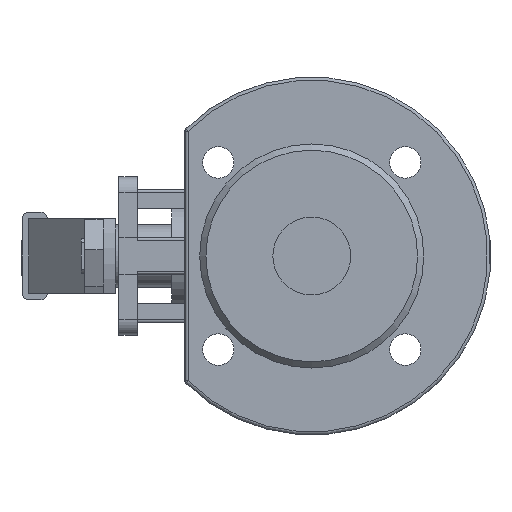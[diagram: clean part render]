
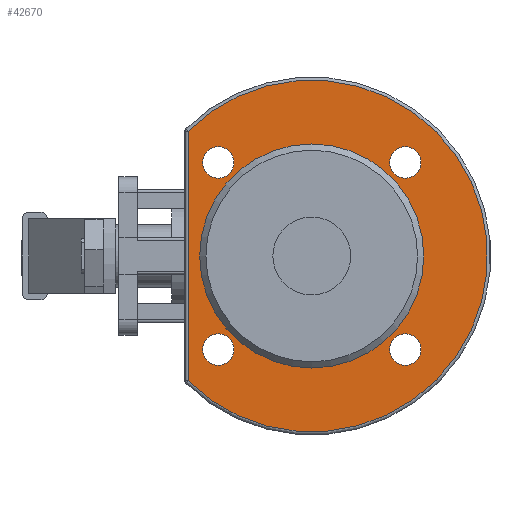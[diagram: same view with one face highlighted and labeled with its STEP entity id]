
A CAD part, left-side view. The second image highlights one B-rep face of the part: STEP entity #42670.
In plain terms, the highlighted planar face has unit normal (-1, 0, 0).
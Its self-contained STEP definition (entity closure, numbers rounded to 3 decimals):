
#42404=CARTESIAN_POINT('',(-23.,39.752,40.15));
#42405=VERTEX_POINT('',#42404);
#42421=CARTESIAN_POINT('',(-23.,39.752,-40.15));
#42422=VERTEX_POINT('',#42421);
#42430=CARTESIAN_POINT('',(-23.,39.752,-40.15));
#42431=DIRECTION('',(0.0,0.0,1.0));
#42432=VECTOR('',#42431,80.3);
#42433=LINE('',#42430,#42432);
#42434=EDGE_CURVE('',#42422,#42405,#42433,.T.);
#42600=CARTESIAN_POINT('',(-23.,46.75,0.0));
#42601=DIRECTION('',(-1.0,0.0,0.0));
#42602=DIRECTION('',(0.0,0.0,1.0));
#42603=AXIS2_PLACEMENT_3D('',#42600,#42601,#42602);
#42604=PLANE('',#42603);
#42605=ORIENTED_EDGE('',*,*,#42434,.F.);
#42606=CARTESIAN_POINT('',(-23.,0.0,0.0));
#42607=DIRECTION('',(1.0,0.0,0.0));
#42608=DIRECTION('',(0.0,-1.0,0.0));
#42609=AXIS2_PLACEMENT_3D('',#42606,#42607,#42608);
#42610=CIRCLE('',#42609,56.5);
#42611=EDGE_CURVE('',#42405,#42422,#42610,.T.);
#42612=ORIENTED_EDGE('',*,*,#42611,.F.);
#42613=EDGE_LOOP('',(#42605,#42612));
#42614=FACE_OUTER_BOUND('',#42613,.T.);
#42615=CARTESIAN_POINT('',(-23.,36.0,0.0));
#42616=VERTEX_POINT('',#42615);
#42617=CARTESIAN_POINT('',(-23.,0.0,0.0));
#42618=DIRECTION('',(1.0,0.0,0.0));
#42619=DIRECTION('',(0.0,1.0,0.0));
#42620=AXIS2_PLACEMENT_3D('',#42617,#42618,#42619);
#42621=CIRCLE('',#42620,36.0);
#42622=EDGE_CURVE('',#42616,#42616,#42621,.T.);
#42623=ORIENTED_EDGE('',*,*,#42622,.T.);
#42624=EDGE_LOOP('',(#42623));
#42625=FACE_BOUND('',#42624,.T.);
#42626=CARTESIAN_POINT('',(-23.,30.052,35.105));
#42627=VERTEX_POINT('',#42626);
#42628=CARTESIAN_POINT('',(-23.,30.052,30.052));
#42629=DIRECTION('',(1.0,0.0,0.0));
#42630=DIRECTION('',(0.0,0.0,1.0));
#42631=AXIS2_PLACEMENT_3D('',#42628,#42629,#42630);
#42632=CIRCLE('',#42631,5.053);
#42633=EDGE_CURVE('',#42627,#42627,#42632,.T.);
#42634=ORIENTED_EDGE('',*,*,#42633,.T.);
#42635=EDGE_LOOP('',(#42634));
#42636=FACE_BOUND('',#42635,.T.);
#42637=CARTESIAN_POINT('',(-23.,30.052,-24.999));
#42638=VERTEX_POINT('',#42637);
#42639=CARTESIAN_POINT('',(-23.,30.052,-30.052));
#42640=DIRECTION('',(1.0,0.0,0.0));
#42641=DIRECTION('',(0.0,0.0,1.0));
#42642=AXIS2_PLACEMENT_3D('',#42639,#42640,#42641);
#42643=CIRCLE('',#42642,5.053);
#42644=EDGE_CURVE('',#42638,#42638,#42643,.T.);
#42645=ORIENTED_EDGE('',*,*,#42644,.T.);
#42646=EDGE_LOOP('',(#42645));
#42647=FACE_BOUND('',#42646,.T.);
#42648=CARTESIAN_POINT('',(-23.,-30.052,-24.999));
#42649=VERTEX_POINT('',#42648);
#42650=CARTESIAN_POINT('',(-23.,-30.052,-30.052));
#42651=DIRECTION('',(1.0,0.0,0.0));
#42652=DIRECTION('',(0.0,0.0,1.0));
#42653=AXIS2_PLACEMENT_3D('',#42650,#42651,#42652);
#42654=CIRCLE('',#42653,5.053);
#42655=EDGE_CURVE('',#42649,#42649,#42654,.T.);
#42656=ORIENTED_EDGE('',*,*,#42655,.T.);
#42657=EDGE_LOOP('',(#42656));
#42658=FACE_BOUND('',#42657,.T.);
#42659=CARTESIAN_POINT('',(-23.,-30.052,35.105));
#42660=VERTEX_POINT('',#42659);
#42661=CARTESIAN_POINT('',(-23.,-30.052,30.052));
#42662=DIRECTION('',(1.0,0.0,0.0));
#42663=DIRECTION('',(0.0,0.0,1.0));
#42664=AXIS2_PLACEMENT_3D('',#42661,#42662,#42663);
#42665=CIRCLE('',#42664,5.053);
#42666=EDGE_CURVE('',#42660,#42660,#42665,.T.);
#42667=ORIENTED_EDGE('',*,*,#42666,.T.);
#42668=EDGE_LOOP('',(#42667));
#42669=FACE_BOUND('',#42668,.T.);
#42670=ADVANCED_FACE('',(#42614,#42625,#42636,#42647,#42658,#42669),#42604,.T.);
